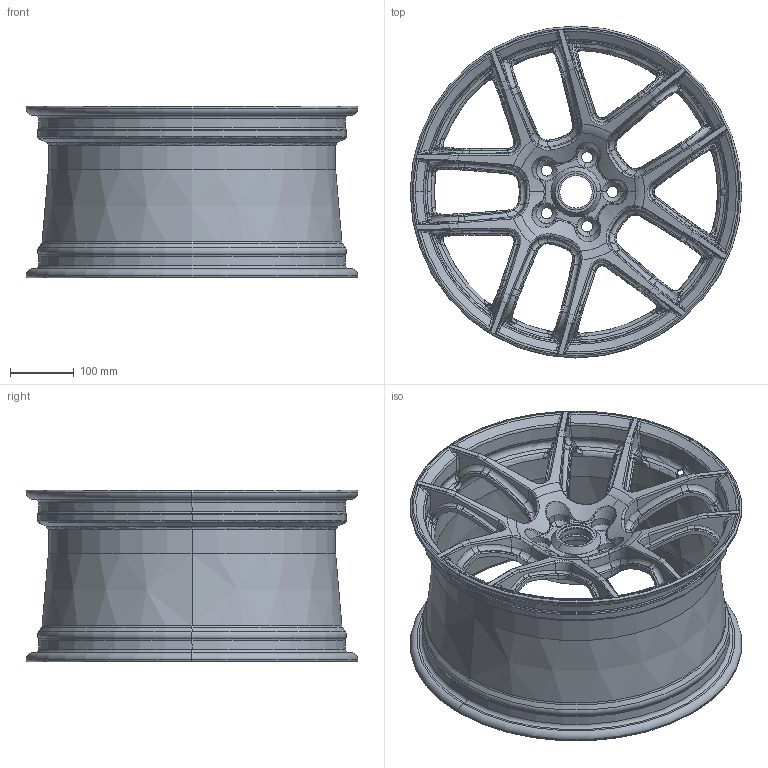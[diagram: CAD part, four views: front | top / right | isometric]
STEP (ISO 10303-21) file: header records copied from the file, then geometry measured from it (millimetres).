
FILE_DESCRIPTION (( 'STEP AP203' ), '1' );
FILE_NAME ('忑唳.STEP', '2026-08-19T02:39:15', ( '' ), ( '' ), 'SwSTEP 2.0', 'SolidWorks 2026', '' );
FILE_SCHEMA (( 'CONFIG_CONTROL_DESIGN' ));
Length unit declared in the file: millimetre
Products named in the file (1): 首版
Bounding box: 522 x 522 x 270 mm (x, y, z)
Volume: 3822942.6 mm3; surface area: 1168403.7 mm2
Topology: 1 solids, 1 shells, 1152 faces, 2921 edges, 1760 vertices
Faces by surface type: bspline 629, torus 230, cone 144, cylinder 90, plane 59
Entity records: 204446 total; most frequent: CARTESIAN_POINT 182557, ORIENTED_EDGE 5842, EDGE_CURVE 2921, DIRECTION 2398, B_SPLINE_CURVE_WITH_KNOTS 2133, VERTEX_POINT 1760, EDGE_LOOP 1175, ADVANCED_FACE 1152
